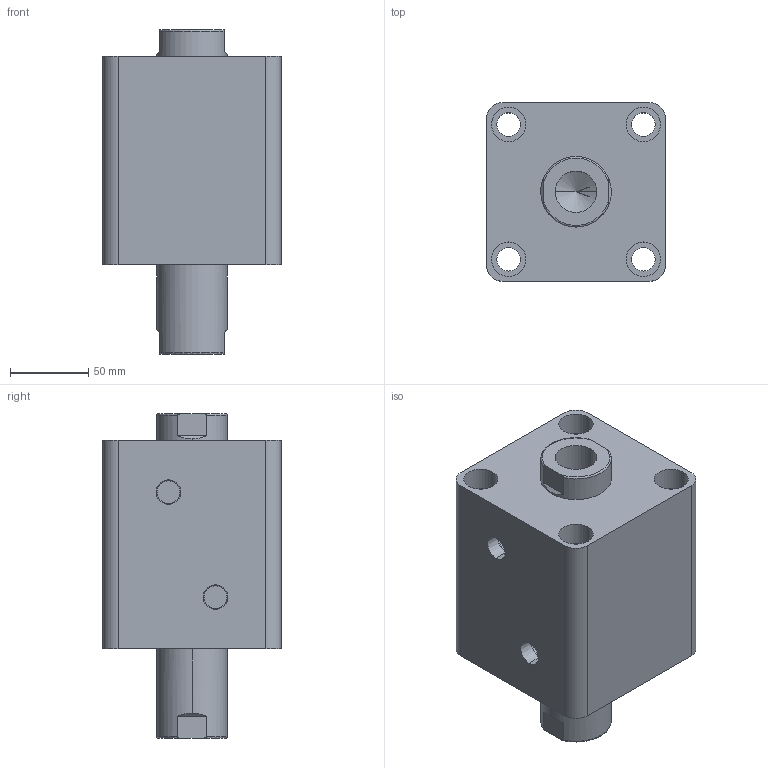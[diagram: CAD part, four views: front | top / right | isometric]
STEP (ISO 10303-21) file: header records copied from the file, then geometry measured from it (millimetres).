
FILE_DESCRIPTION (( 'STEP AP203' ), '1' );
FILE_NAME ('HTB-SW80-40N.STEP', '2019-10-07T10:22:14', ( '微软用户' ), ( '微软中国' ), 'SwSTEP 2.0', 'SolidWorks 2012', '' );
FILE_SCHEMA (( 'CONFIG_CONTROL_DESIGN' ));
Length unit declared in the file: millimetre
Products named in the file (3): HTB-SW80-40N; HTB-SW80-40N活塞杆; HTB-SW80-40掛极
Assembly tree (2 placements, depth 2):
  HTB-SW80-40N
    HTB-SW80-40掛极
    HTB-SW80-40N活塞杆
Bounding box: 114 x 114 x 207 mm (x, y, z)
Volume: 1542810 mm3; surface area: 188780.3 mm2
Topology: 2 solids, 2 shells, 100 faces, 228 edges, 146 vertices
Faces by surface type: cylinder 48, plane 32, torus 12, cone 8
Entity records: 3237 total; most frequent: CARTESIAN_POINT 595, DIRECTION 542, ORIENTED_EDGE 448, AXIS2_PLACEMENT_3D 229, EDGE_CURVE 224, VERTEX_POINT 146, EDGE_LOOP 128, CIRCLE 124
